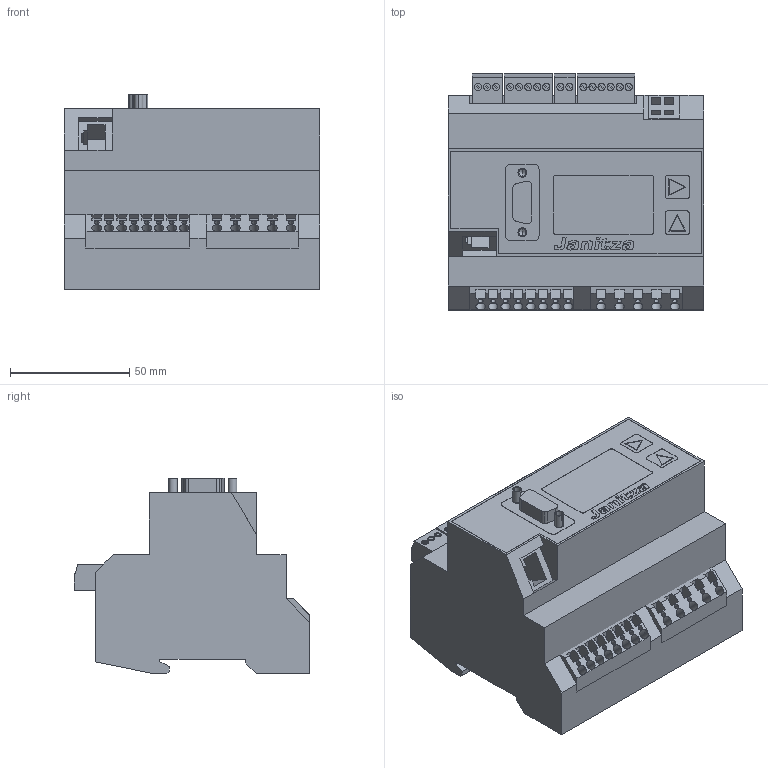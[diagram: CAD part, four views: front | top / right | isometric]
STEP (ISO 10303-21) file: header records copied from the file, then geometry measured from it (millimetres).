
FILE_DESCRIPTION((''),'2;1');
FILE_NAME('C:\Janitza\UMG604P.stp','2013-04-24T20:35:53',('Potschkay'),(''),'Autodesk Inventor 7','Autodesk Inventor 7','');
FILE_SCHEMA(('AUTOMOTIVE_DESIGN { 1 0 10303 214 1 1 1 1 }'));
Length unit declared in the file: millimetre
Products named in the file (13): UMG604P; UMG604; RS485; RJ45; Leiste1; Leiste2; Leiste3; Leiste4; Leiste5; Leiste6; Leiste7; Blende; Taste
Assembly tree (13 placements, depth 2):
  UMG604P
    UMG604
    RS485
    RJ45
    Leiste1
    Leiste2
    Leiste3
    Leiste4
    Leiste5
    Leiste6
    Leiste7
    Blende
    Taste  x2
Bounding box: 107 x 99 x 82 mm (x, y, z)
Volume: 541540.1 mm3; surface area: 69869.6 mm2
Topology: 17 solids, 17 shells, 710 faces, 2032 edges, 1351 vertices
Faces by surface type: plane 459, cylinder 160, bspline 91
Entity records: 24375 total; most frequent: CARTESIAN_POINT 5892, ORIENTED_EDGE 3948, DIRECTION 3516, EDGE_CURVE 1974, VECTOR 1414, LINE 1414, VERTEX_POINT 1315, AXIS2_PLACEMENT_3D 1051
